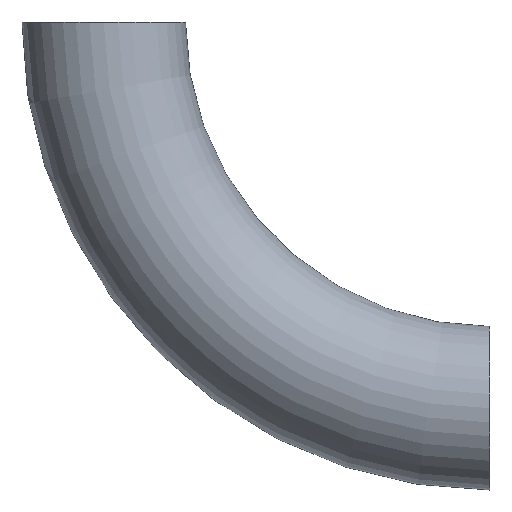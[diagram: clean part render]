
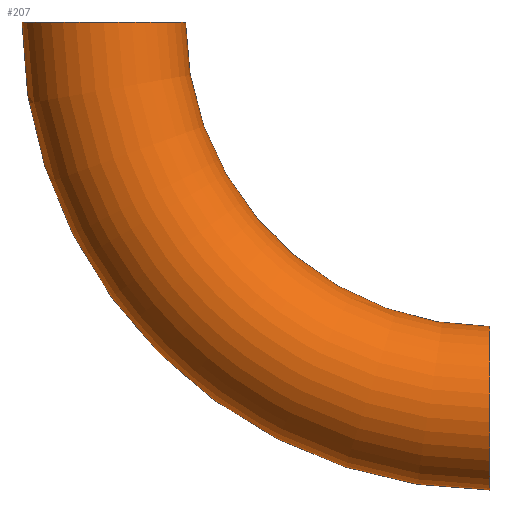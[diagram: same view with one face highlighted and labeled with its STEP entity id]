
A CAD part, front view. The second image highlights one B-rep face of the part: STEP entity #207.
In plain terms, the highlighted toroidal (fillet/blend) face has major radius 330 mm and minor radius 69.85 mm.
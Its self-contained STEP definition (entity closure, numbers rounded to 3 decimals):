
#2 = DIRECTION ( 'NONE',  ( 0., 0., 1. ) ) ;
#7 = CARTESIAN_POINT ( 'NONE',  ( 0., 0., 0. ) ) ;
#8 = EDGE_CURVE ( 'NONE', #11, #50, #225, .T. ) ;
#9 = FACE_OUTER_BOUND ( 'NONE', #38, .T. ) ;
#11 = VERTEX_POINT ( 'NONE', #220 ) ;
#16 = VERTEX_POINT ( 'NONE', #54 ) ;
#21 = VERTEX_POINT ( 'NONE', #71 ) ;
#22 = CIRCLE ( 'NONE', #62, 69.85 ) ;
#27 = CARTESIAN_POINT ( 'NONE',  ( 0., 0., -330. ) ) ;
#32 = CIRCLE ( 'NONE', #238, 260.15 ) ;
#38 = EDGE_LOOP ( 'NONE', ( #116, #139, #218, #74 ) ) ;
#50 = VERTEX_POINT ( 'NONE', #199 ) ;
#54 = CARTESIAN_POINT ( 'NONE',  ( -260.15, 0., 0. ) ) ;
#58 = CIRCLE ( 'NONE', #245, 69.85 ) ;
#62 = AXIS2_PLACEMENT_3D ( 'NONE', #27, #223, #205 ) ;
#63 = DIRECTION ( 'NONE',  ( 0., 1., 0. ) ) ;
#71 = CARTESIAN_POINT ( 'NONE',  ( 0., 0., -260.15 ) ) ;
#74 = ORIENTED_EDGE ( 'NONE', *, *, #149, .F. ) ;
#78 = TOROIDAL_SURFACE ( 'NONE', #239, 330., 69.85 ) ;
#79 = DIRECTION ( 'NONE',  ( 0., 0., 1. ) ) ;
#94 = DIRECTION ( 'NONE',  ( 0., 1., 0. ) ) ;
#99 = AXIS2_PLACEMENT_3D ( 'NONE', #174, #94, #2 ) ;
#102 = DIRECTION ( 'NONE',  ( 1., 0., 0. ) ) ;
#112 = EDGE_CURVE ( 'NONE', #21, #16, #32, .T. ) ;
#116 = ORIENTED_EDGE ( 'NONE', *, *, #8, .F. ) ;
#128 = EDGE_CURVE ( 'NONE', #11, #21, #22, .T. ) ;
#139 = ORIENTED_EDGE ( 'NONE', *, *, #128, .T. ) ;
#145 = DIRECTION ( 'NONE',  ( 0., 1., 0. ) ) ;
#149 = EDGE_CURVE ( 'NONE', #50, #16, #58, .T. ) ;
#166 = CARTESIAN_POINT ( 'NONE',  ( 0., 0., 0. ) ) ;
#169 = DIRECTION ( 'NONE',  ( 0., 0., 1. ) ) ;
#174 = CARTESIAN_POINT ( 'NONE',  ( 0., 0., 0. ) ) ;
#188 = CARTESIAN_POINT ( 'NONE',  ( -330., 0., 0. ) ) ;
#199 = CARTESIAN_POINT ( 'NONE',  ( -399.85, 0., 0. ) ) ;
#205 = DIRECTION ( 'NONE',  ( 0., 0., 1. ) ) ;
#207 = ADVANCED_FACE ( 'NONE', ( #9 ), #78, .T. ) ;
#218 = ORIENTED_EDGE ( 'NONE', *, *, #112, .T. ) ;
#220 = CARTESIAN_POINT ( 'NONE',  ( 0., 0., -399.85 ) ) ;
#223 = DIRECTION ( 'NONE',  ( -1., 0., 0. ) ) ;
#225 = CIRCLE ( 'NONE', #99, 399.85 ) ;
#238 = AXIS2_PLACEMENT_3D ( 'NONE', #7, #145, #169 ) ;
#239 = AXIS2_PLACEMENT_3D ( 'NONE', #166, #63, #246 ) ;
#245 = AXIS2_PLACEMENT_3D ( 'NONE', #188, #79, #102 ) ;
#246 = DIRECTION ( 'NONE',  ( 0., 0., 1. ) ) ;
